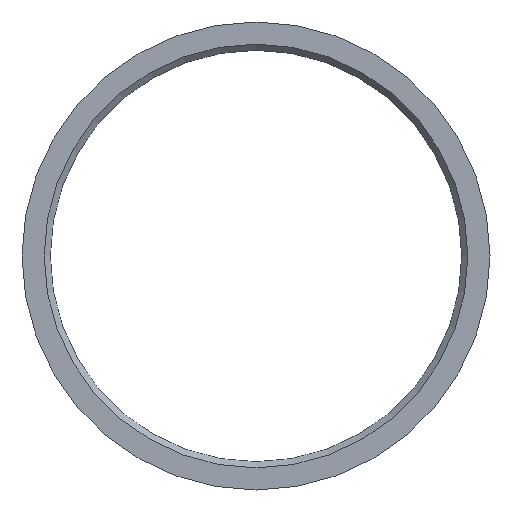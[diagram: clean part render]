
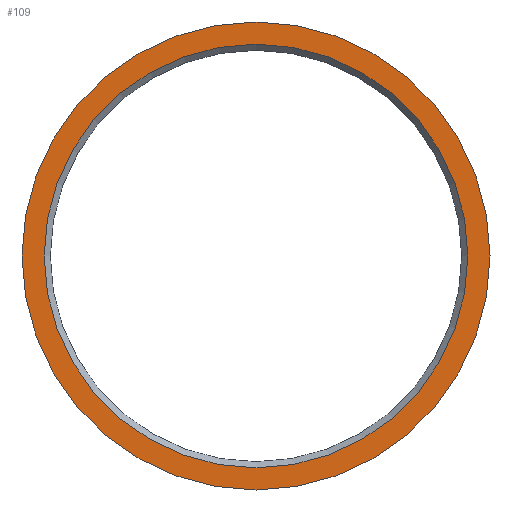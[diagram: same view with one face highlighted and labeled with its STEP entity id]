
A CAD part, front view. The second image highlights one B-rep face of the part: STEP entity #109.
In plain terms, the highlighted planar face has unit normal (0, -1, 0).
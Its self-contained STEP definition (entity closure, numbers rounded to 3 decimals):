
#16=FACE_BOUND('',#34,.T.);
#18=PLANE('',#144);
#25=FACE_OUTER_BOUND('',#33,.T.);
#33=EDGE_LOOP('',(#90));
#34=EDGE_LOOP('',(#91));
#51=CIRCLE('',#143,34.45);
#52=CIRCLE('',#145,38.05);
#59=VERTEX_POINT('',#202);
#60=VERTEX_POINT('',#206);
#70=EDGE_CURVE('',#59,#59,#51,.T.);
#71=EDGE_CURVE('',#60,#60,#52,.T.);
#90=ORIENTED_EDGE('',*,*,#71,.F.);
#91=ORIENTED_EDGE('',*,*,#70,.F.);
#109=ADVANCED_FACE('',(#25,#16),#18,.F.);
#143=AXIS2_PLACEMENT_3D('',#204,#171,#172);
#144=AXIS2_PLACEMENT_3D('',#205,#173,#174);
#145=AXIS2_PLACEMENT_3D('',#207,#175,#176);
#171=DIRECTION('center_axis',(0.,-1.,0.));
#172=DIRECTION('ref_axis',(1.,0.,0.));
#173=DIRECTION('center_axis',(0.,1.,0.));
#174=DIRECTION('ref_axis',(0.,0.,1.));
#175=DIRECTION('center_axis',(0.,1.,0.));
#176=DIRECTION('ref_axis',(-1.,0.,0.));
#202=CARTESIAN_POINT('',(-34.45,0.,0.));
#204=CARTESIAN_POINT('Origin',(0.,0.,0.));
#205=CARTESIAN_POINT('Origin',(0.,0.,0.));
#206=CARTESIAN_POINT('',(-38.05,0.,0.));
#207=CARTESIAN_POINT('Origin',(0.,0.,0.));
